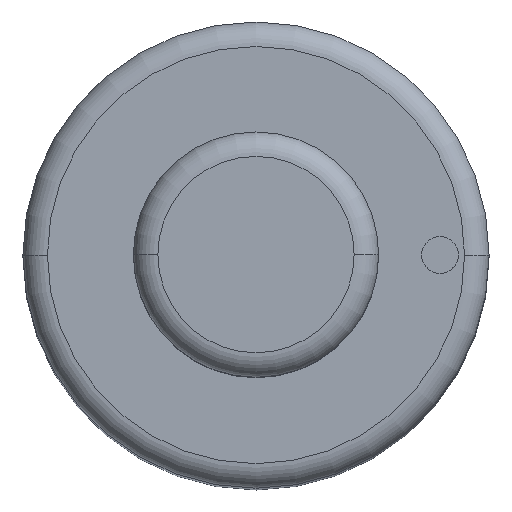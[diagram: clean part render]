
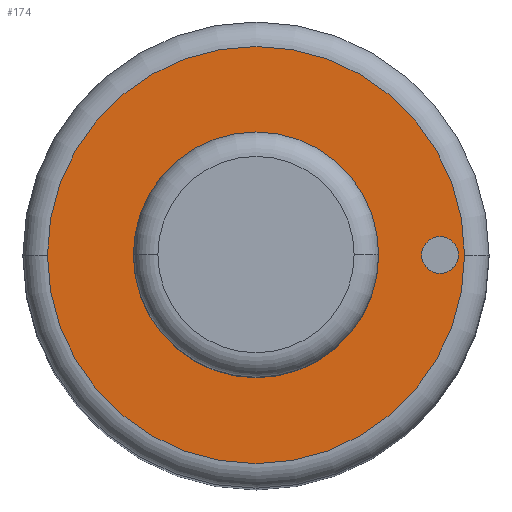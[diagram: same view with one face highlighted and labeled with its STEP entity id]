
A CAD part, top view. The second image highlights one B-rep face of the part: STEP entity #174.
In plain terms, the highlighted planar face has unit normal (0, 0, 1).
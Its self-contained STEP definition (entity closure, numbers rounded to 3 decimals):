
#99=FACE_BOUND('',#225,.T.);
#100=FACE_BOUND('',#226,.T.);
#101=FACE_BOUND('',#227,.T.);
#174=ADVANCED_FACE('',(#99,#100,#101),#180,.T.);
#180=PLANE('',#475);
#225=EDGE_LOOP('',(#307,#308));
#226=EDGE_LOOP('',(#309,#310));
#227=EDGE_LOOP('',(#311,#312));
#307=ORIENTED_EDGE('',*,*,#367,.F.);
#308=ORIENTED_EDGE('',*,*,#368,.F.);
#309=ORIENTED_EDGE('',*,*,#390,.F.);
#310=ORIENTED_EDGE('',*,*,#391,.F.);
#311=ORIENTED_EDGE('',*,*,#363,.T.);
#312=ORIENTED_EDGE('',*,*,#361,.T.);
#329=VERTEX_POINT('',#630);
#330=VERTEX_POINT('',#632);
#331=VERTEX_POINT('',#638);
#334=VERTEX_POINT('',#643);
#346=VERTEX_POINT('',#692);
#347=VERTEX_POINT('',#693);
#361=EDGE_CURVE('',#330,#329,#404,.T.);
#363=EDGE_CURVE('',#329,#330,#405,.T.);
#367=EDGE_CURVE('',#334,#331,#409,.T.);
#368=EDGE_CURVE('',#331,#334,#410,.T.);
#390=EDGE_CURVE('',#346,#347,#422,.T.);
#391=EDGE_CURVE('',#347,#346,#423,.T.);
#404=CIRCLE('',#440,5.);
#405=CIRCLE('',#442,5.);
#409=CIRCLE('',#447,8.5);
#410=CIRCLE('',#449,8.5);
#422=CIRCLE('',#473,0.75);
#423=CIRCLE('',#474,0.75);
#440=AXIS2_PLACEMENT_3D('',#631,#512,#513);
#442=AXIS2_PLACEMENT_3D('',#635,#517,#518);
#447=AXIS2_PLACEMENT_3D('',#644,#527,#528);
#449=AXIS2_PLACEMENT_3D('',#646,#531,#532);
#473=AXIS2_PLACEMENT_3D('',#691,#589,#590);
#474=AXIS2_PLACEMENT_3D('',#694,#591,#592);
#475=AXIS2_PLACEMENT_3D('',#695,#593,#594);
#512=DIRECTION('',(0.,0.,-1.));
#513=DIRECTION('',(0.,1.,0.));
#517=DIRECTION('',(0.,0.,-1.));
#518=DIRECTION('',(0.,-1.,0.));
#527=DIRECTION('',(0.,0.,-1.));
#528=DIRECTION('',(0.,1.,0.));
#531=DIRECTION('',(0.,0.,-1.));
#532=DIRECTION('',(0.,-1.,0.));
#589=DIRECTION('',(0.,0.,1.));
#590=DIRECTION('',(0.,1.,0.));
#591=DIRECTION('',(0.,0.,1.));
#592=DIRECTION('',(0.,-1.,0.));
#593=DIRECTION('',(0.,0.,1.));
#594=DIRECTION('',(0.,-1.,0.));
#630=CARTESIAN_POINT('',(-5.,0.,44.));
#631=CARTESIAN_POINT('',(0.,0.,44.));
#632=CARTESIAN_POINT('',(5.,0.,44.));
#635=CARTESIAN_POINT('',(0.,0.,44.));
#638=CARTESIAN_POINT('',(-8.5,0.,44.));
#643=CARTESIAN_POINT('',(8.5,0.,44.));
#644=CARTESIAN_POINT('',(0.,0.,44.));
#646=CARTESIAN_POINT('',(0.,0.,44.));
#691=CARTESIAN_POINT('',(7.5,0.,44.));
#692=CARTESIAN_POINT('',(6.75,0.,44.));
#693=CARTESIAN_POINT('',(8.25,0.,44.));
#694=CARTESIAN_POINT('',(7.5,0.,44.));
#695=CARTESIAN_POINT('',(0.,0.,44.));
